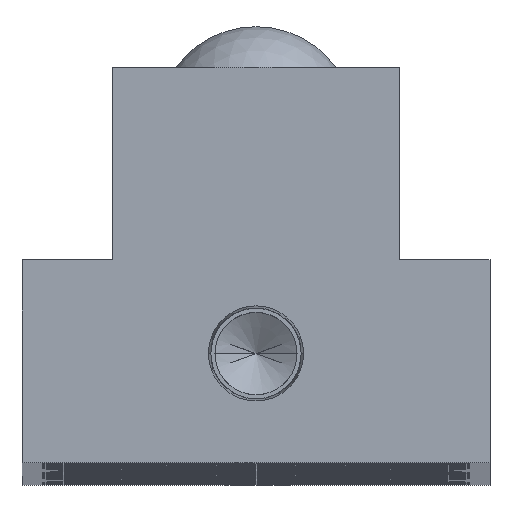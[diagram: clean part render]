
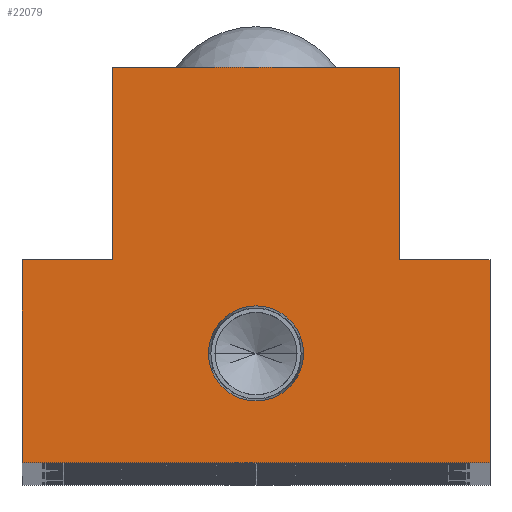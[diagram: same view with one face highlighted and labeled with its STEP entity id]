
A CAD part, top view. The second image highlights one B-rep face of the part: STEP entity #22079.
In plain terms, the highlighted planar face has unit normal (0, 0, 1).
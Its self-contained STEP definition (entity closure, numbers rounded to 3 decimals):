
#190 = VERTEX_POINT ( 'NONE', #14781 ) ;
#338 = CARTESIAN_POINT ( 'NONE',  ( 22.5, 19.5, 0. ) ) ;
#844 = ORIENTED_EDGE ( 'NONE', *, *, #19640, .T. ) ;
#957 = LINE ( 'NONE', #7664, #18538 ) ;
#1156 = LINE ( 'NONE', #20545, #14720 ) ;
#1358 = VECTOR ( 'NONE', #9510, 1000. ) ;
#1381 = EDGE_CURVE ( 'NONE', #16449, #3365, #20547, .T. ) ;
#1814 = DIRECTION ( 'NONE',  ( 0., 0., 1. ) ) ;
#1908 = CARTESIAN_POINT ( 'NONE',  ( -22.5, 0., 0. ) ) ;
#2015 = CARTESIAN_POINT ( 'NONE',  ( -4.574, 10.5, 0. ) ) ;
#2251 = CARTESIAN_POINT ( 'NONE',  ( 22.5, 19.5, 0. ) ) ;
#2282 = EDGE_LOOP ( 'NONE', ( #5131, #11049 ) ) ;
#2677 = FACE_OUTER_BOUND ( 'NONE', #17166, .T. ) ;
#2766 = ORIENTED_EDGE ( 'NONE', *, *, #22683, .T. ) ;
#3189 = CARTESIAN_POINT ( 'NONE',  ( -13.75, 38., 0. ) ) ;
#3365 = VERTEX_POINT ( 'NONE', #1908 ) ;
#3467 = CARTESIAN_POINT ( 'NONE',  ( -22.5, 19.5, 0. ) ) ;
#3600 = EDGE_CURVE ( 'NONE', #16829, #16475, #5233, .T. ) ;
#4444 = EDGE_CURVE ( 'NONE', #16475, #16829, #17776, .T. ) ;
#4492 = VERTEX_POINT ( 'NONE', #9095 ) ;
#4751 = CARTESIAN_POINT ( 'NONE',  ( 22.5, 19.5, 0. ) ) ;
#4937 = VECTOR ( 'NONE', #8377, 1000. ) ;
#5033 = CARTESIAN_POINT ( 'NONE',  ( 0., 10.5, 0. ) ) ;
#5131 = ORIENTED_EDGE ( 'NONE', *, *, #3600, .F. ) ;
#5233 = CIRCLE ( 'NONE', #9148, 4.574 ) ;
#5558 = CARTESIAN_POINT ( 'NONE',  ( -22.5, 19.5, 0. ) ) ;
#5697 = LINE ( 'NONE', #2251, #19025 ) ;
#5749 = EDGE_CURVE ( 'NONE', #9749, #19621, #957, .T. ) ;
#5802 = ORIENTED_EDGE ( 'NONE', *, *, #18381, .T. ) ;
#5814 = CARTESIAN_POINT ( 'NONE',  ( 22.5, 0., 0. ) ) ;
#5866 = CARTESIAN_POINT ( 'NONE',  ( 13.75, 38., 0. ) ) ;
#6109 = VECTOR ( 'NONE', #15147, 1000. ) ;
#6227 = DIRECTION ( 'NONE',  ( -1., 0., 0. ) ) ;
#6846 = DIRECTION ( 'NONE',  ( 1., 0., 0. ) ) ;
#7664 = CARTESIAN_POINT ( 'NONE',  ( -13.75, 38., 0. ) ) ;
#8123 = VECTOR ( 'NONE', #10112, 1000. ) ;
#8377 = DIRECTION ( 'NONE',  ( -1., 0., 0. ) ) ;
#9095 = CARTESIAN_POINT ( 'NONE',  ( 13.75, 38., 0. ) ) ;
#9148 = AXIS2_PLACEMENT_3D ( 'NONE', #5033, #17257, #6846 ) ;
#9446 = DIRECTION ( 'NONE',  ( 0., 1., 0. ) ) ;
#9510 = DIRECTION ( 'NONE',  ( 0., 1., 0. ) ) ;
#9749 = VERTEX_POINT ( 'NONE', #3189 ) ;
#10112 = DIRECTION ( 'NONE',  ( -1., 0., 0. ) ) ;
#10237 = DIRECTION ( 'NONE',  ( -1., 0., 0. ) ) ;
#10877 = LINE ( 'NONE', #5866, #1358 ) ;
#11049 = ORIENTED_EDGE ( 'NONE', *, *, #4444, .F. ) ;
#12109 = ORIENTED_EDGE ( 'NONE', *, *, #5749, .T. ) ;
#12455 = CARTESIAN_POINT ( 'NONE',  ( 0., 10.5, 0. ) ) ;
#12598 = VERTEX_POINT ( 'NONE', #5814 ) ;
#13019 = EDGE_CURVE ( 'NONE', #12598, #18062, #5697, .T. ) ;
#13186 = CARTESIAN_POINT ( 'NONE',  ( 0., 0., 0. ) ) ;
#14177 = DIRECTION ( 'NONE',  ( 1., 0., 0. ) ) ;
#14580 = DIRECTION ( 'NONE',  ( 0., -1., 0. ) ) ;
#14720 = VECTOR ( 'NONE', #10237, 1000. ) ;
#14781 = CARTESIAN_POINT ( 'NONE',  ( 13.75, 19.5, 0. ) ) ;
#14830 = LINE ( 'NONE', #22164, #4937 ) ;
#15147 = DIRECTION ( 'NONE',  ( 1., 0., 0. ) ) ;
#15373 = LINE ( 'NONE', #21880, #6109 ) ;
#16127 = AXIS2_PLACEMENT_3D ( 'NONE', #13186, #16663, #6227 ) ;
#16449 = VERTEX_POINT ( 'NONE', #5558 ) ;
#16475 = VERTEX_POINT ( 'NONE', #2015 ) ;
#16663 = DIRECTION ( 'NONE',  ( 0., 0., -1. ) ) ;
#16700 = FACE_BOUND ( 'NONE', #2282, .T. ) ;
#16829 = VERTEX_POINT ( 'NONE', #20495 ) ;
#17166 = EDGE_LOOP ( 'NONE', ( #18313, #844, #18116, #2766, #12109, #5802, #19750, #21682 ) ) ;
#17257 = DIRECTION ( 'NONE',  ( 0., 0., 1. ) ) ;
#17336 = LINE ( 'NONE', #4751, #8123 ) ;
#17459 = DIRECTION ( 'NONE',  ( 0., -1., 0. ) ) ;
#17776 = CIRCLE ( 'NONE', #18992, 4.574 ) ;
#18062 = VERTEX_POINT ( 'NONE', #338 ) ;
#18116 = ORIENTED_EDGE ( 'NONE', *, *, #19996, .T. ) ;
#18313 = ORIENTED_EDGE ( 'NONE', *, *, #13019, .T. ) ;
#18315 = PLANE ( 'NONE',  #16127 ) ;
#18381 = EDGE_CURVE ( 'NONE', #19621, #16449, #1156, .T. ) ;
#18538 = VECTOR ( 'NONE', #14580, 1000. ) ;
#18992 = AXIS2_PLACEMENT_3D ( 'NONE', #12455, #1814, #14177 ) ;
#19025 = VECTOR ( 'NONE', #9446, 1000. ) ;
#19621 = VERTEX_POINT ( 'NONE', #21980 ) ;
#19640 = EDGE_CURVE ( 'NONE', #18062, #190, #17336, .T. ) ;
#19750 = ORIENTED_EDGE ( 'NONE', *, *, #1381, .T. ) ;
#19996 = EDGE_CURVE ( 'NONE', #190, #4492, #10877, .T. ) ;
#20014 = VECTOR ( 'NONE', #17459, 1000. ) ;
#20495 = CARTESIAN_POINT ( 'NONE',  ( 4.574, 10.5, 0. ) ) ;
#20545 = CARTESIAN_POINT ( 'NONE',  ( -13.75, 19.5, 0. ) ) ;
#20547 = LINE ( 'NONE', #3467, #20014 ) ;
#21682 = ORIENTED_EDGE ( 'NONE', *, *, #22151, .T. ) ;
#21880 = CARTESIAN_POINT ( 'NONE',  ( 22.5, 0., 0. ) ) ;
#21980 = CARTESIAN_POINT ( 'NONE',  ( -13.75, 19.5, 0. ) ) ;
#22079 = ADVANCED_FACE ( 'NONE', ( #16700, #2677 ), #18315, .F. ) ;
#22151 = EDGE_CURVE ( 'NONE', #3365, #12598, #15373, .T. ) ;
#22164 = CARTESIAN_POINT ( 'NONE',  ( -13.75, 38., 0. ) ) ;
#22683 = EDGE_CURVE ( 'NONE', #4492, #9749, #14830, .T. ) ;
